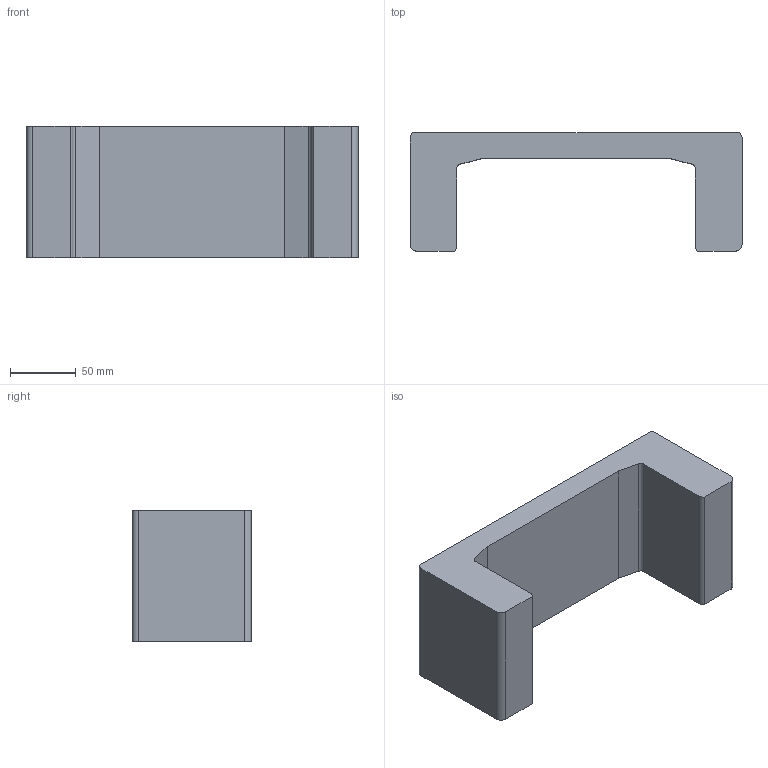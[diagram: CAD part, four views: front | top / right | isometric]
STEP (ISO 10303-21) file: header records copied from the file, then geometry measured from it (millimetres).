
FILE_DESCRIPTION((''),'2;1');
FILE_NAME('K:\Daten\KOMPONENTEN 2D + 3D\KOMPONENTEN Inventor-Files\ALFATEC_UP_180_0700__100mm_.stp','2013-02-05T16:48:38',('Wenzelburger'),(''),'Autodesk Inventor 2012','Autodesk Inventor 2012','');
FILE_SCHEMA(('AUTOMOTIVE_DESIGN { 1 0 10303 214 1 1 1 1 }'));
Length unit declared in the file: millimetre
Products named in the file (1): ALFATEC_UP_180_0700__100mm_
Bounding box: 252.5 x 90 x 100 mm (x, y, z)
Volume: 1002109.6 mm3; surface area: 100669.2 mm2
Topology: 1 solids, 1 shells, 20 faces, 54 edges, 36 vertices
Faces by surface type: plane 12, cylinder 8
Entity records: 660 total; most frequent: DIRECTION 112, CARTESIAN_POINT 111, ORIENTED_EDGE 108, EDGE_CURVE 54, VECTOR 38, LINE 38, AXIS2_PLACEMENT_3D 37, VERTEX_POINT 36
